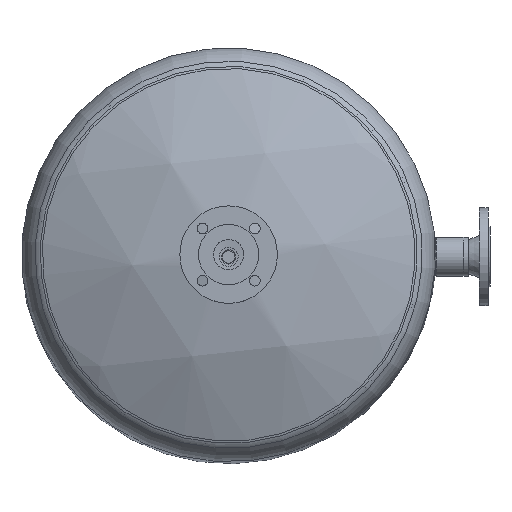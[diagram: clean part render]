
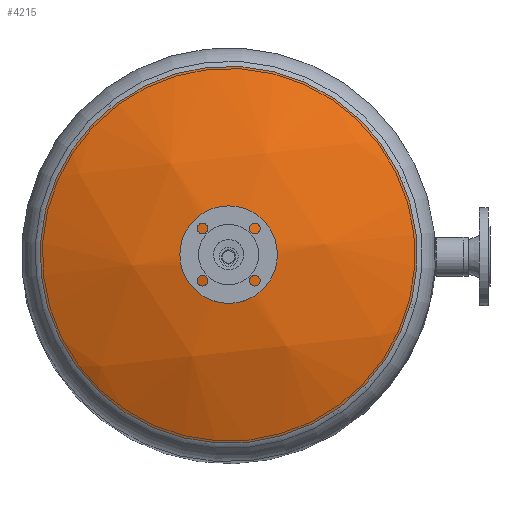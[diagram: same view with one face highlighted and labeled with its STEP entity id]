
A CAD part, top view. The second image highlights one B-rep face of the part: STEP entity #4215.
In plain terms, the highlighted spherical face has radius 708 mm.
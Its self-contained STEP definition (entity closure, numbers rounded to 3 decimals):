
#3565=CARTESIAN_POINT('',(-20.668,26.046,1976.219));
#3566=VERTEX_POINT('',#3565);
#3567=CARTESIAN_POINT('',(0.,0.,1976.219));
#3568=DIRECTION('',(0.0,0.0,-1.0));
#3569=DIRECTION('',(0.622,-0.783,0.0));
#3570=AXIS2_PLACEMENT_3D('',#3567,#3568,#3569);
#3571=CIRCLE('',#3570,33.25);
#3572=EDGE_CURVE('',#3566,#3566,#3571,.T.);
#4189=CARTESIAN_POINT('',(316.901,34.753,1901.163));
#4190=VERTEX_POINT('',#4189);
#4191=CARTESIAN_POINT('',(0.,0.,1901.163));
#4192=DIRECTION('',(0.,0.,1.));
#4193=DIRECTION('',(0.994,0.109,0.));
#4194=AXIS2_PLACEMENT_3D('',#4191,#4192,#4193);
#4195=CIRCLE('',#4194,318.801);
#4196=EDGE_CURVE('',#4190,#4190,#4195,.T.);
#4204=CARTESIAN_POINT('',(0.,0.,1269.));
#4205=DIRECTION('',(-0.109,0.994,0.));
#4206=DIRECTION('',(0.994,0.109,0.));
#4207=AXIS2_PLACEMENT_3D('',#4204,#4205,#4206);
#4208=SPHERICAL_SURFACE('',#4207,708.);
#4209=ORIENTED_EDGE('',*,*,#3572,.T.);
#4210=EDGE_LOOP('',(#4209));
#4211=FACE_OUTER_BOUND('',#4210,.T.);
#4212=ORIENTED_EDGE('',*,*,#4196,.T.);
#4213=EDGE_LOOP('',(#4212));
#4214=FACE_BOUND('',#4213,.T.);
#4215=ADVANCED_FACE('',(#4211,#4214),#4208,.T.);
